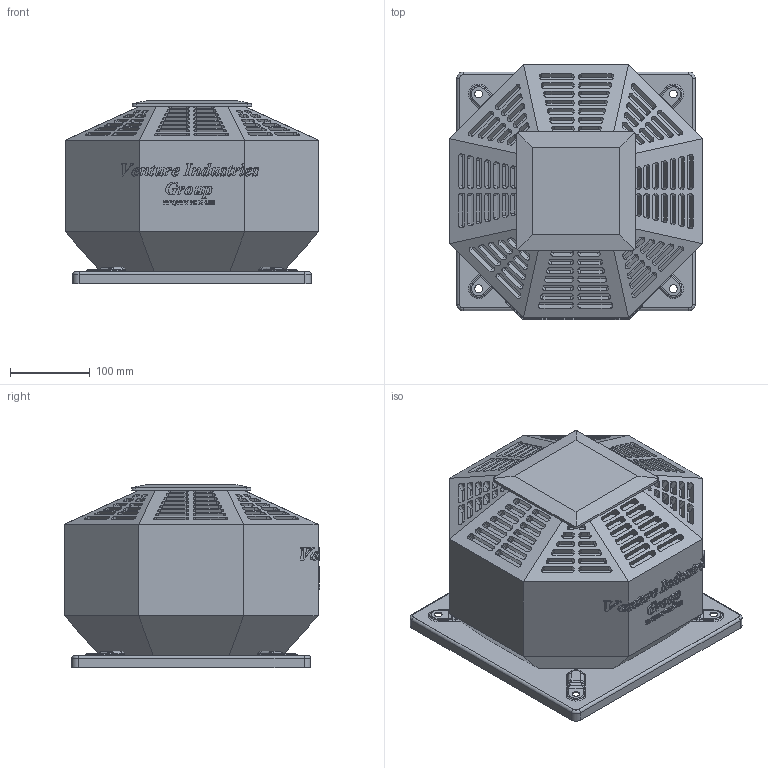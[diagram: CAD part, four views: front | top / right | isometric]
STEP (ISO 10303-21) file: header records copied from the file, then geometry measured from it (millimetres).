
FILE_DESCRIPTION(/* description */ (''),/* implementation_level */ '2;1');
FILE_NAME(/* name */ 'D:\Piotr - Dokumenty\Modele uproszczone\RFV\RFV X-160\RFV_RFV_EC_X_160_X\RFV_RFV_EC_X_160_X.stp',/* time_stamp */ '2021-03-22T13:30:13+01:00',/* author */ ('Piotr.Nowotniak'),/* organization */ (''),/* preprocessor_version */ 'ST-DEVELOPER v18',/* originating_system */ 'Autodesk Inventor 2020',/* authorisation */ '');
FILE_SCHEMA (('AUTOMOTIVE_DESIGN { 1 0 10303 214 3 1 1 }'));
Products named in the file (1): RFV_RFV_EC_X_160_X
Bounding box: 319 x 321 x 230.2 mm (x, y, z)
Volume: 14853876.2 mm3; surface area: 541824.8 mm2
Topology: 1 solids, 1 shells, 1982 faces, 5280 edges, 3463 vertices
Faces by surface type: plane 952, cylinder 504, bspline 495, torus 22, cone 9
Full cylindrical faces by diameter (mm): 10 x4
Entity records: 71004 total; most frequent: CARTESIAN_POINT 22621, ORIENTED_EDGE 10560, DIRECTION 8335, EDGE_CURVE 5280, VERTEX_POINT 3463, LINE 3187, VECTOR 3187, AXIS2_PLACEMENT_3D 2574
